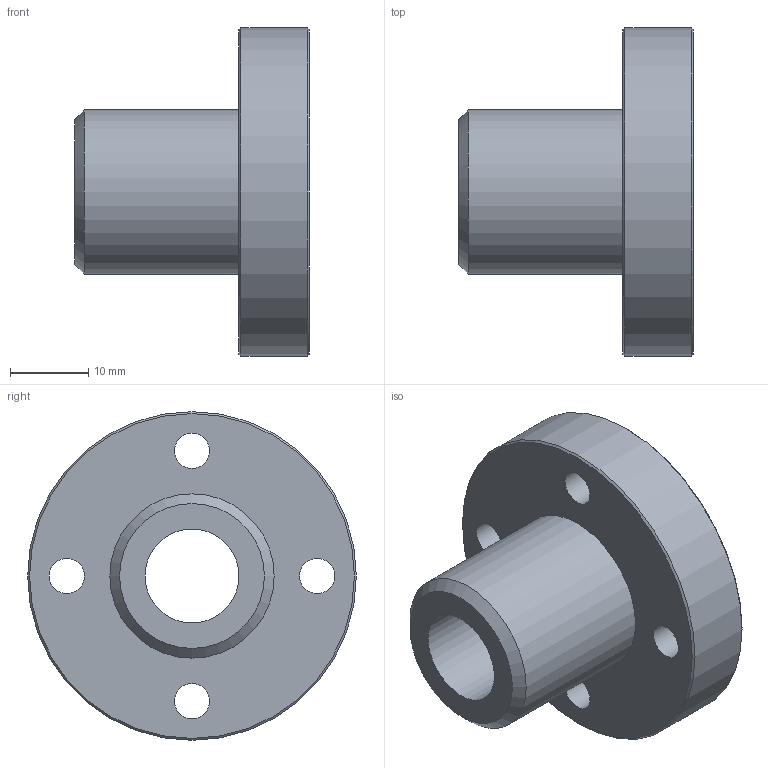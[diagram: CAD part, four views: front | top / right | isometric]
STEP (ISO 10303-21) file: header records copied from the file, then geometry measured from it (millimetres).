
FILE_DESCRIPTION(('STEP AP203'),'1');
FILE_NAME('//192.168.1.1/share/s-4 技術開発/s-4-4_CAD/s-4-4-3_見直し済み/PBC LINEAR修正済み/3D途中/SFPJ/SFPJR/SFPJR12.step','2022-03-24T06:33:03',(' '),(' '),'Spatial InterOp 3D',' ',' ');
FILE_SCHEMA(('CONFIG_CONTROL_DESIGN'));
Length unit declared in the file: millimetre
Products named in the file (1): 1
Bounding box: 30 x 42 x 42 mm (x, y, z)
Volume: 15255.4 mm3; surface area: 6695.1 mm2
Topology: 1 solids, 1 shells, 21 faces, 44 edges, 30 vertices
Faces by surface type: cylinder 11, plane 7, cone 3
Full cylindrical faces by diameter (mm): 4.5 x4, 7.5 x4, 12 x1, 21 x1, 42 x1
Entity records: 528 total; most frequent: DIRECTION 94, CARTESIAN_POINT 72, EDGE_LOOP 50, ORIENTED_EDGE 50, AXIS2_PLACEMENT_3D 47, FACE_OUTER_BOUND 32, EDGE_CURVE 25, VERTEX_POINT 25
